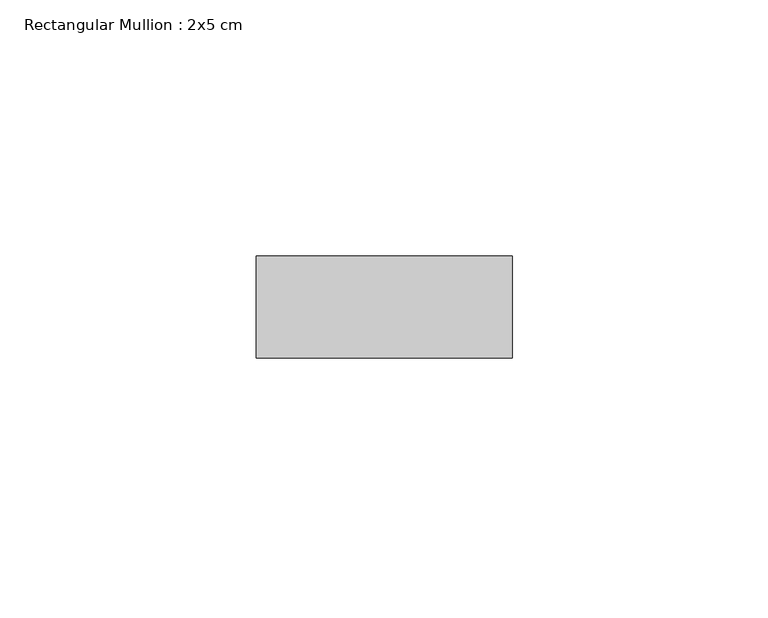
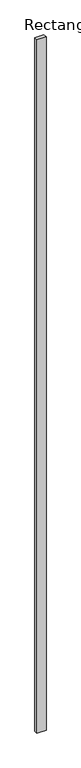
"""IFC4 building model written with IfcOpenShell, lengths in millimetres: member geometry, Rectangular Mullion : 2x5 cm."""

from ifc_helpers import new_model, si_unit, frame, origin, place, context, project, spatial, polyline, outline, extrude, source, transform, mapped, element, save


def rectangular_mullion_2x5_cm_70bc551b(model_context):
    return source(origin(), model_context, "Body", "SweptSolid", [
        extrude(outline(polyline([(50.0, 20.0), (50.0, 0.0), (0.0, 0.0), (0.0, 20.0), (50.0, 20.0)])), frame((0.0, 0.0, -4056.6588586), z_axis=(0.0, 0.0, 1.0), x_axis=(1.0, 0.0, 0.0)), (0.0, 0.0, 1.0), 4056.6588586),
    ])


if __name__ == "__main__":
    model = new_model("IFC4")
    model_context = context("Model", 3, world=origin())
    ifc_project = project(units=[si_unit("LENGTHUNIT", "METRE", prefix="MILLI")], contexts=[model_context])
    site = spatial("IfcSite", under=ifc_project)
    building = spatial("IfcBuilding", under=site)
    placement = place(None, origin())
    rectangular_mullion_2x5_cm_shape = rectangular_mullion_2x5_cm_70bc551b(model_context)
    element("IfcMember", 1, ObjectType="Rectangular Mullion : 2x5 cm", at=placement, inside=building, context=model_context, shape_type="MappedRepresentation", body=[
        mapped(rectangular_mullion_2x5_cm_shape, transform((0.0, 0.0, 0.0), x_axis=(1.0, 0.0, 0.0), y_axis=(0.0, 1.0, 0.0), z_axis=(0.0, 0.0, 1.0))),
    ])
    save(model, "model.ifc")
